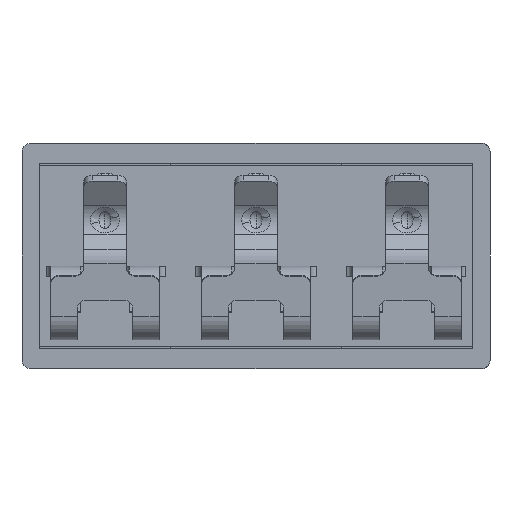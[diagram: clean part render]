
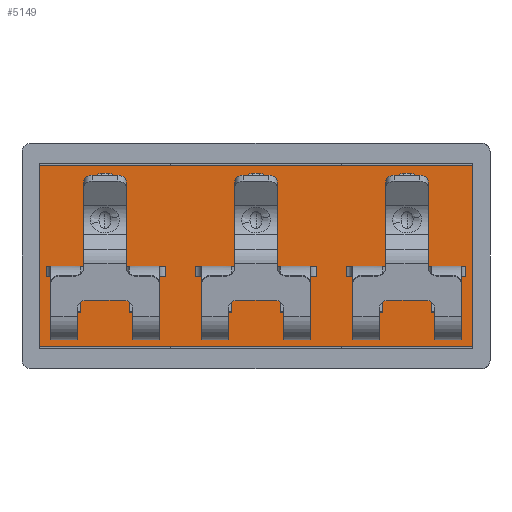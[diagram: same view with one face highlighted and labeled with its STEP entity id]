
A CAD part, front view. The second image highlights one B-rep face of the part: STEP entity #5149.
In plain terms, the highlighted planar face has unit normal (0, -1, 0).
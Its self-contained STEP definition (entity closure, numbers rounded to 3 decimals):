
#754 = CARTESIAN_POINT ( 'NONE',  ( -5.1, -7.25, -5.788 ) ) ;
#913 = DIRECTION ( 'NONE',  ( 0., 0., 1. ) ) ;
#914 = VECTOR ( 'NONE', #913, 1000. ) ;
#917 = CARTESIAN_POINT ( 'NONE',  ( -5.1, -7.25, -5.813 ) ) ;
#918 = LINE ( 'NONE', #917, #914 ) ;
#1421 = CARTESIAN_POINT ( 'NONE',  ( -5.1, -7.25, -1.513 ) ) ;
#1716 = CARTESIAN_POINT ( 'NONE',  ( 5.1, -7.25, -1.513 ) ) ;
#1717 = CARTESIAN_POINT ( 'NONE',  ( 5.1, -7.25, -5.788 ) ) ;
#1795 = CARTESIAN_POINT ( 'NONE',  ( 5.1, -7.25, -5.813 ) ) ;
#1796 = LINE ( 'NONE', #1795, #1878 ) ;
#1877 = DIRECTION ( 'NONE',  ( 0., 0., -1. ) ) ;
#1878 = VECTOR ( 'NONE', #1877, 1000. ) ;
#5090 = ORIENTED_EDGE ( 'NONE', *, *, #5254, .F. ) ;
#5098 = EDGE_LOOP ( 'NONE', ( #5090, #5155, #5223, #5253 ) ) ;
#5146 = EDGE_LOOP ( 'NONE', ( #5212, #5232, #5211, #5205 ) ) ;
#5147 = VERTEX_POINT ( 'NONE', #21444 ) ;
#5148 = VERTEX_POINT ( 'NONE', #21438 ) ;
#5149 = ADVANCED_FACE ( 'NONE', ( #21437, #21456, #21369, #21441 ), #21433, .T. ) ;
#5150 = VERTEX_POINT ( 'NONE', #21521 ) ;
#5151 = ORIENTED_EDGE ( 'NONE', *, *, #5248, .T. ) ;
#5152 = EDGE_CURVE ( 'NONE', #5154, #5148, #21432, .T. ) ;
#5153 = VERTEX_POINT ( 'NONE', #21513 ) ;
#5154 = VERTEX_POINT ( 'NONE', #21518 ) ;
#5155 = ORIENTED_EDGE ( 'NONE', *, *, #5221, .T. ) ;
#5156 = EDGE_CURVE ( 'NONE', #5153, #5154, #21450, .T. ) ;
#5194 = EDGE_LOOP ( 'NONE', ( #5276, #5247, #5151, #5274 ) ) ;
#5205 = ORIENTED_EDGE ( 'NONE', *, *, #5214, .F. ) ;
#5210 = EDGE_CURVE ( 'NONE', #5249, #5275, #21751, .T. ) ;
#5211 = ORIENTED_EDGE ( 'NONE', *, *, #13412, .F. ) ;
#5212 = ORIENTED_EDGE ( 'NONE', *, *, #13000, .F. ) ;
#5214 = EDGE_CURVE ( 'NONE', #13218, #13351, #21760, .T. ) ;
#5221 = EDGE_CURVE ( 'NONE', #5147, #5153, #21706, .T. ) ;
#5223 = ORIENTED_EDGE ( 'NONE', *, *, #5156, .T. ) ;
#5224 = EDGE_CURVE ( 'NONE', #5271, #5277, #21658, .T. ) ;
#5225 = EDGE_CURVE ( 'NONE', #5249, #5150, #21737, .T. ) ;
#5226 = ORIENTED_EDGE ( 'NONE', *, *, #5210, .F. ) ;
#5227 = EDGE_LOOP ( 'NONE', ( #5228, #5229, #5244, #5226 ) ) ;
#5228 = ORIENTED_EDGE ( 'NONE', *, *, #5225, .T. ) ;
#5229 = ORIENTED_EDGE ( 'NONE', *, *, #5230, .T. ) ;
#5230 = EDGE_CURVE ( 'NONE', #5150, #5245, #21653, .T. ) ;
#5231 = EDGE_CURVE ( 'NONE', #5245, #5275, #21728, .T. ) ;
#5232 = ORIENTED_EDGE ( 'NONE', *, *, #5262, .F. ) ;
#5244 = ORIENTED_EDGE ( 'NONE', *, *, #5231, .T. ) ;
#5245 = VERTEX_POINT ( 'NONE', #21723 ) ;
#5246 = VERTEX_POINT ( 'NONE', #21722 ) ;
#5247 = ORIENTED_EDGE ( 'NONE', *, *, #5278, .T. ) ;
#5248 = EDGE_CURVE ( 'NONE', #5246, #5277, #21814, .T. ) ;
#5249 = VERTEX_POINT ( 'NONE', #21811 ) ;
#5253 = ORIENTED_EDGE ( 'NONE', *, *, #5152, .T. ) ;
#5254 = EDGE_CURVE ( 'NONE', #5147, #5148, #21802, .T. ) ;
#5262 = EDGE_CURVE ( 'NONE', #13350, #13016, #21606, .T. ) ;
#5271 = VERTEX_POINT ( 'NONE', #21599 ) ;
#5272 = VERTEX_POINT ( 'NONE', #21588 ) ;
#5273 = EDGE_CURVE ( 'NONE', #5271, #5272, #21586, .T. ) ;
#5274 = ORIENTED_EDGE ( 'NONE', *, *, #5224, .F. ) ;
#5275 = VERTEX_POINT ( 'NONE', #21593 ) ;
#5276 = ORIENTED_EDGE ( 'NONE', *, *, #5273, .T. ) ;
#5277 = VERTEX_POINT ( 'NONE', #21584 ) ;
#5278 = EDGE_CURVE ( 'NONE', #5272, #5246, #21796, .T. ) ;
#13000 = EDGE_CURVE ( 'NONE', #13016, #13218, #918, .T. ) ;
#13016 = VERTEX_POINT ( 'NONE', #754 ) ;
#13218 = VERTEX_POINT ( 'NONE', #1421 ) ;
#13350 = VERTEX_POINT ( 'NONE', #1717 ) ;
#13351 = VERTEX_POINT ( 'NONE', #1716 ) ;
#13412 = EDGE_CURVE ( 'NONE', #13351, #13350, #1796, .T. ) ;
#21369 = FACE_BOUND ( 'NONE', #5227, .T. ) ;
#21431 = AXIS2_PLACEMENT_3D ( 'NONE', #21462, #21443, #21514 ) ;
#21432 = LINE ( 'NONE', #21515, #21512 ) ;
#21433 = PLANE ( 'NONE',  #21431 ) ;
#21437 = FACE_BOUND ( 'NONE', #5098, .T. ) ;
#21438 = CARTESIAN_POINT ( 'NONE',  ( 2.275, -7.25, -3.887 ) ) ;
#21441 = FACE_OUTER_BOUND ( 'NONE', #5146, .T. ) ;
#21443 = DIRECTION ( 'NONE',  ( 0., -1., 0. ) ) ;
#21444 = CARTESIAN_POINT ( 'NONE',  ( 4.825, -7.25, -3.888 ) ) ;
#21449 = CARTESIAN_POINT ( 'NONE',  ( -5.115, -7.25, -4.137 ) ) ;
#21450 = LINE ( 'NONE', #21449, #21506 ) ;
#21456 = FACE_BOUND ( 'NONE', #5194, .T. ) ;
#21462 = CARTESIAN_POINT ( 'NONE',  ( -5.115, -7.25, -16.023 ) ) ;
#21505 = DIRECTION ( 'NONE',  ( -1., 0., 0. ) ) ;
#21506 = VECTOR ( 'NONE', #21505, 1000. ) ;
#21511 = DIRECTION ( 'NONE',  ( 0., 0., 1. ) ) ;
#21512 = VECTOR ( 'NONE', #21511, 1000. ) ;
#21513 = CARTESIAN_POINT ( 'NONE',  ( 4.825, -7.25, -4.138 ) ) ;
#21514 = DIRECTION ( 'NONE',  ( 0., 0., -1. ) ) ;
#21515 = CARTESIAN_POINT ( 'NONE',  ( 2.275, -7.25, -16.023 ) ) ;
#21518 = CARTESIAN_POINT ( 'NONE',  ( 2.275, -7.25, -4.138 ) ) ;
#21521 = CARTESIAN_POINT ( 'NONE',  ( -2.275, -7.25, -4.138 ) ) ;
#21584 = CARTESIAN_POINT ( 'NONE',  ( -1.275, -7.25, -3.888 ) ) ;
#21585 = VECTOR ( 'NONE', #21639, 1000. ) ;
#21586 = LINE ( 'NONE', #21644, #21643 ) ;
#21588 = CARTESIAN_POINT ( 'NONE',  ( 1.275, -7.25, -4.138 ) ) ;
#21593 = CARTESIAN_POINT ( 'NONE',  ( -4.825, -7.25, -3.888 ) ) ;
#21599 = CARTESIAN_POINT ( 'NONE',  ( 1.275, -7.25, -3.888 ) ) ;
#21603 = DIRECTION ( 'NONE',  ( -1., 0., 0. ) ) ;
#21604 = VECTOR ( 'NONE', #21603, 1000. ) ;
#21605 = CARTESIAN_POINT ( 'NONE',  ( -5.115, -7.25, -5.788 ) ) ;
#21606 = LINE ( 'NONE', #21605, #21604 ) ;
#21623 = DIRECTION ( 'NONE',  ( 1., 0., 0. ) ) ;
#21624 = VECTOR ( 'NONE', #21623, 1000. ) ;
#21639 = DIRECTION ( 'NONE',  ( -1., 0., 0. ) ) ;
#21642 = DIRECTION ( 'NONE',  ( 0., 0., -1. ) ) ;
#21643 = VECTOR ( 'NONE', #21642, 1000. ) ;
#21644 = CARTESIAN_POINT ( 'NONE',  ( 1.275, -7.25, -16.023 ) ) ;
#21648 = DIRECTION ( 'NONE',  ( -1., 0., 0. ) ) ;
#21649 = VECTOR ( 'NONE', #21648, 1000. ) ;
#21650 = DIRECTION ( 'NONE',  ( 0., 0., -1. ) ) ;
#21651 = VECTOR ( 'NONE', #21650, 1000. ) ;
#21652 = CARTESIAN_POINT ( 'NONE',  ( 4.825, -7.25, -16.023 ) ) ;
#21653 = LINE ( 'NONE', #21672, #21649 ) ;
#21658 = LINE ( 'NONE', #21660, #21659 ) ;
#21659 = VECTOR ( 'NONE', #21739, 1000. ) ;
#21660 = CARTESIAN_POINT ( 'NONE',  ( -5.115, -7.25, -3.888 ) ) ;
#21672 = CARTESIAN_POINT ( 'NONE',  ( -5.115, -7.25, -4.137 ) ) ;
#21706 = LINE ( 'NONE', #21652, #21651 ) ;
#21722 = CARTESIAN_POINT ( 'NONE',  ( -1.275, -7.25, -4.138 ) ) ;
#21723 = CARTESIAN_POINT ( 'NONE',  ( -4.825, -7.25, -4.138 ) ) ;
#21725 = DIRECTION ( 'NONE',  ( 0., 0., 1. ) ) ;
#21726 = VECTOR ( 'NONE', #21725, 1000. ) ;
#21727 = CARTESIAN_POINT ( 'NONE',  ( -4.825, -7.25, -16.023 ) ) ;
#21728 = LINE ( 'NONE', #21727, #21726 ) ;
#21734 = DIRECTION ( 'NONE',  ( 0., 0., -1. ) ) ;
#21735 = VECTOR ( 'NONE', #21734, 1000. ) ;
#21736 = CARTESIAN_POINT ( 'NONE',  ( -2.275, -7.25, -16.023 ) ) ;
#21737 = LINE ( 'NONE', #21736, #21735 ) ;
#21739 = DIRECTION ( 'NONE',  ( -1., 0., 0. ) ) ;
#21748 = DIRECTION ( 'NONE',  ( -1., 0., 0. ) ) ;
#21749 = VECTOR ( 'NONE', #21748, 1000. ) ;
#21750 = CARTESIAN_POINT ( 'NONE',  ( -5.115, -7.25, -3.888 ) ) ;
#21751 = LINE ( 'NONE', #21750, #21749 ) ;
#21759 = CARTESIAN_POINT ( 'NONE',  ( -5.115, -7.25, -1.513 ) ) ;
#21760 = LINE ( 'NONE', #21759, #21624 ) ;
#21795 = CARTESIAN_POINT ( 'NONE',  ( -5.115, -7.25, -4.137 ) ) ;
#21796 = LINE ( 'NONE', #21795, #21585 ) ;
#21799 = DIRECTION ( 'NONE',  ( -1., 0., 0. ) ) ;
#21800 = VECTOR ( 'NONE', #21799, 1000. ) ;
#21801 = CARTESIAN_POINT ( 'NONE',  ( -5.115, -7.25, -3.888 ) ) ;
#21802 = LINE ( 'NONE', #21801, #21800 ) ;
#21809 = DIRECTION ( 'NONE',  ( 0., 0., 1. ) ) ;
#21811 = CARTESIAN_POINT ( 'NONE',  ( -2.275, -7.25, -3.888 ) ) ;
#21812 = VECTOR ( 'NONE', #21809, 1000. ) ;
#21813 = CARTESIAN_POINT ( 'NONE',  ( -1.275, -7.25, -16.023 ) ) ;
#21814 = LINE ( 'NONE', #21813, #21812 ) ;
